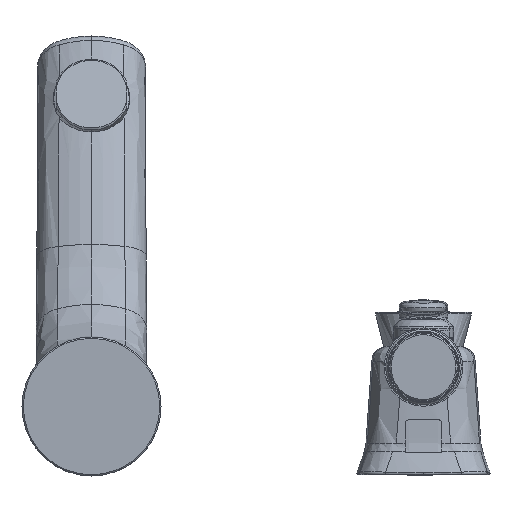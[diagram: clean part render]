
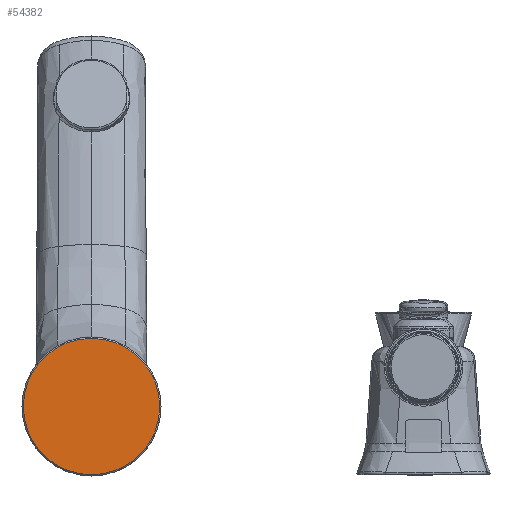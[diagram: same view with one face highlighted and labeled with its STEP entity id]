
A CAD part, front view. The second image highlights one B-rep face of the part: STEP entity #54382.
In plain terms, the highlighted planar face has unit normal (0, -1, 0).
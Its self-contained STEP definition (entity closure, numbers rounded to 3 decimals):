
#4388 = AXIS2_PLACEMENT_3D ( 'NONE', #42059, #36055, #78955 ) ;
#8554 = PLANE ( 'NONE',  #48695 ) ;
#14219 = CARTESIAN_POINT ( 'NONE',  ( -0.611, 0., -20.642 ) ) ;
#15889 = ORIENTED_EDGE ( 'NONE', *, *, #58165, .F. ) ;
#20250 = DIRECTION ( 'NONE',  ( 0., -1., 0. ) ) ;
#27068 = DIRECTION ( 'NONE',  ( 0., 0., -1. ) ) ;
#27170 = CARTESIAN_POINT ( 'NONE',  ( -0.611, 0., 0. ) ) ;
#27980 = CARTESIAN_POINT ( 'NONE',  ( -0.611, 0., 25.25 ) ) ;
#32327 = EDGE_CURVE ( 'NONE', #39230, #45131, #56386, .T. ) ;
#36055 = DIRECTION ( 'NONE',  ( 0., 1., 0. ) ) ;
#37913 = FACE_OUTER_BOUND ( 'NONE', #72952, .T. ) ;
#39134 = CARTESIAN_POINT ( 'NONE',  ( -0.611, 0., -25.25 ) ) ;
#39230 = VERTEX_POINT ( 'NONE', #27980 ) ;
#42059 = CARTESIAN_POINT ( 'NONE',  ( -0.611, 0., 0. ) ) ;
#45131 = VERTEX_POINT ( 'NONE', #39134 ) ;
#46701 = CIRCLE ( 'NONE', #4388, 25.25 ) ;
#48695 = AXIS2_PLACEMENT_3D ( 'NONE', #14219, #20250, #27068 ) ;
#54382 = ADVANCED_FACE ( 'NONE', ( #37913 ), #8554, .T. ) ;
#55137 = AXIS2_PLACEMENT_3D ( 'NONE', #27170, #75698, #69294 ) ;
#56386 = CIRCLE ( 'NONE', #55137, 25.25 ) ;
#58165 = EDGE_CURVE ( 'NONE', #45131, #39230, #46701, .T. ) ;
#61536 = ORIENTED_EDGE ( 'NONE', *, *, #32327, .F. ) ;
#69294 = DIRECTION ( 'NONE',  ( 0., 0., 1. ) ) ;
#72952 = EDGE_LOOP ( 'NONE', ( #61536, #15889 ) ) ;
#75698 = DIRECTION ( 'NONE',  ( 0., 1., 0. ) ) ;
#78955 = DIRECTION ( 'NONE',  ( 0., 0., 1. ) ) ;
